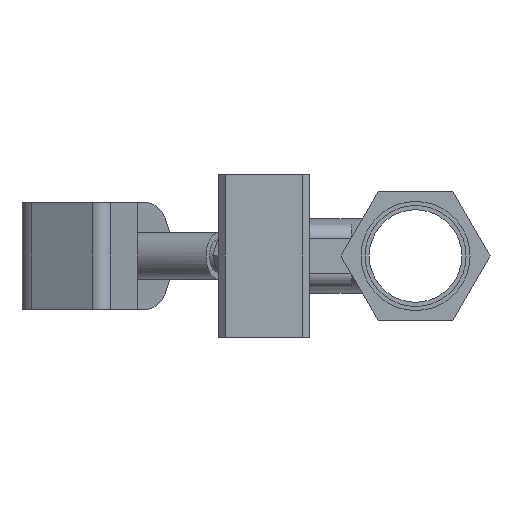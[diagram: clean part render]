
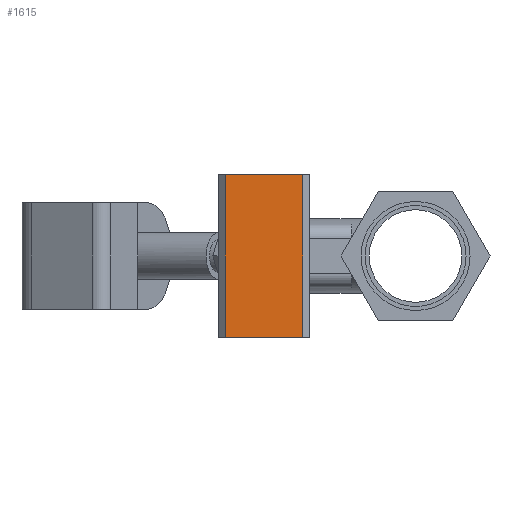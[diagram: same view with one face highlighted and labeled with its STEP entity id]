
A CAD part, left-side view. The second image highlights one B-rep face of the part: STEP entity #1615.
In plain terms, the highlighted planar face has unit normal (-1, 0, 0).
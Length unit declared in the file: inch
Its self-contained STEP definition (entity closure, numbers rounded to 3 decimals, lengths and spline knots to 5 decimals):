
#119=PLANE('',#1766);
#190=FACE_OUTER_BOUND('',#287,.T.);
#287=EDGE_LOOP('',(#1302,#1303,#1304,#1305));
#429=LINE('',#2624,#562);
#435=LINE('',#2635,#568);
#436=LINE('',#2638,#569);
#437=LINE('',#2639,#570);
#562=VECTOR('',#2143,0.3937);
#568=VECTOR('',#2151,0.3937);
#569=VECTOR('',#2154,0.3937);
#570=VECTOR('',#2155,0.3937);
#770=VERTEX_POINT('',#2621);
#771=VERTEX_POINT('',#2623);
#775=VERTEX_POINT('',#2633);
#776=VERTEX_POINT('',#2637);
#963=EDGE_CURVE('',#770,#771,#429,.T.);
#969=EDGE_CURVE('',#775,#770,#435,.T.);
#970=EDGE_CURVE('',#776,#775,#436,.T.);
#971=EDGE_CURVE('',#776,#771,#437,.T.);
#1302=ORIENTED_EDGE('',*,*,#969,.F.);
#1303=ORIENTED_EDGE('',*,*,#970,.F.);
#1304=ORIENTED_EDGE('',*,*,#971,.T.);
#1305=ORIENTED_EDGE('',*,*,#963,.F.);
#1615=ADVANCED_FACE('',(#190),#119,.T.);
#1766=AXIS2_PLACEMENT_3D('',#2636,#2152,#2153);
#2143=DIRECTION('',(0.,1.,0.));
#2151=DIRECTION('',(0.,0.,-1.));
#2152=DIRECTION('center_axis',(-1.,0.,0.));
#2153=DIRECTION('ref_axis',(0.,-1.,0.));
#2154=DIRECTION('',(0.,-1.,0.));
#2155=DIRECTION('',(0.,0.,-1.));
#2621=CARTESIAN_POINT('',(-4.175,2.65,-1.91));
#2623=CARTESIAN_POINT('',(-4.175,4.475,-1.91));
#2624=CARTESIAN_POINT('',(-4.175,2.65,-1.91));
#2633=CARTESIAN_POINT('',(-4.175,2.65,1.91));
#2635=CARTESIAN_POINT('',(-4.175,2.65,0.));
#2636=CARTESIAN_POINT('Origin',(-4.175,4.475,0.));
#2637=CARTESIAN_POINT('',(-4.175,4.475,1.91));
#2638=CARTESIAN_POINT('',(-4.175,2.65,1.91));
#2639=CARTESIAN_POINT('',(-4.175,4.475,0.));
